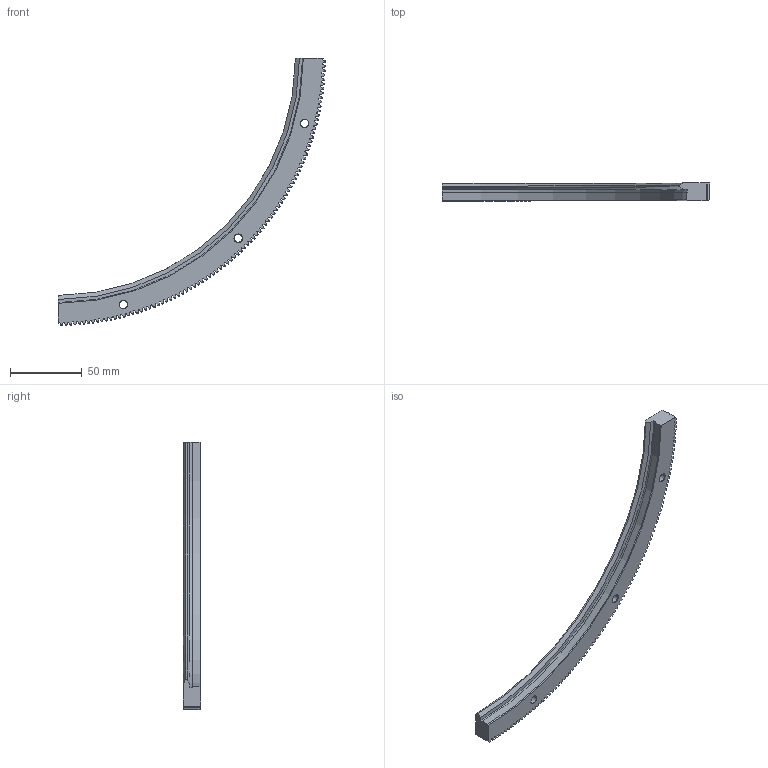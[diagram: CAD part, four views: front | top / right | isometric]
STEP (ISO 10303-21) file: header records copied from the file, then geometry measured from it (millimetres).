
FILE_DESCRIPTION( ( 'STEP AP203' ), '1' );
FILE_NAME( 'p:/temp/worker_79/temp/exporttempdir_6088_66_sKxyR/format_0/RIS 374 R90 P.stp', '2021-09-01T01:44:16', ( 'License CC BY-ND 4.0' ), ( 'CADENAS' ), ' ', 'PARTsolutions', ' ' );
FILE_SCHEMA( ( 'CONFIG_CONTROL_DESIGN' ) );
Length unit declared in the file: millimetre
Products named in the file (1): _RIS 374 R90 P
Bounding box: 185.98 x 12.25 x 185.98 mm (x, y, z)
Volume: 53283.3 mm3; surface area: 21833.6 mm2
Topology: 1 solids, 1 shells, 580 faces, 1722 edges, 1147 vertices
Faces by surface type: plane 381, cylinder 100, cone 98, torus 1
Full cylindrical faces by diameter (mm): 5.5 x3, 10 x3
Entity records: 19517 total; most frequent: CARTESIAN_POINT 4029, ORIENTED_EDGE 3426, DIRECTION 2983, EDGE_CURVE 1713, LINE 1221, VECTOR 1221, VERTEX_POINT 1147, AXIS2_PLACEMENT_3D 881
